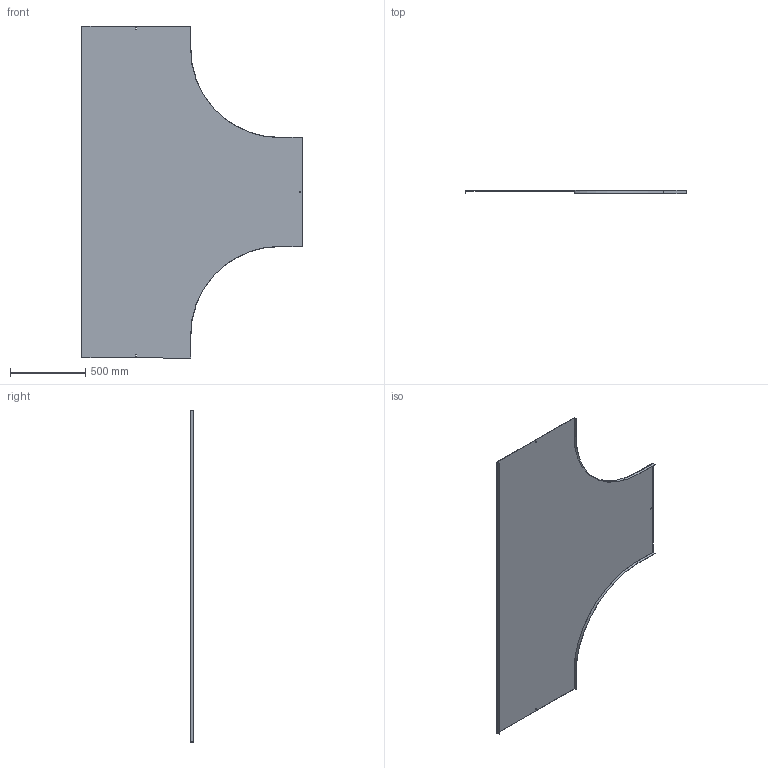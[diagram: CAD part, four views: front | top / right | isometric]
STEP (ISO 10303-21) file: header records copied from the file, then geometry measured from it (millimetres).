
FILE_DESCRIPTION (( 'STEP AP214' ), '1' );
FILE_NAME ('15N6P700.step', '2025-02-21T13:56:41', ( '' ), ( '' ), 'SwSTEP 2.0', 'SolidWorks 2023', '' );
FILE_SCHEMA (( 'AUTOMOTIVE_DESIGN' ));
Length unit declared in the file: millimetre
Products named in the file (1): 15N6P700
Bounding box: 1461.5 x 20 x 2200 mm (x, y, z)
Volume: 3538581 mm3; surface area: 4728640.7 mm2
Topology: 1 solids, 1 shells, 34 faces, 96 edges, 64 vertices
Faces by surface type: plane 30, cylinder 4
Entity records: 1123 total; most frequent: CARTESIAN_POINT 195, ORIENTED_EDGE 192, DIRECTION 174, EDGE_CURVE 96, LINE 88, VECTOR 88, VERTEX_POINT 64, AXIS2_PLACEMENT_3D 43
